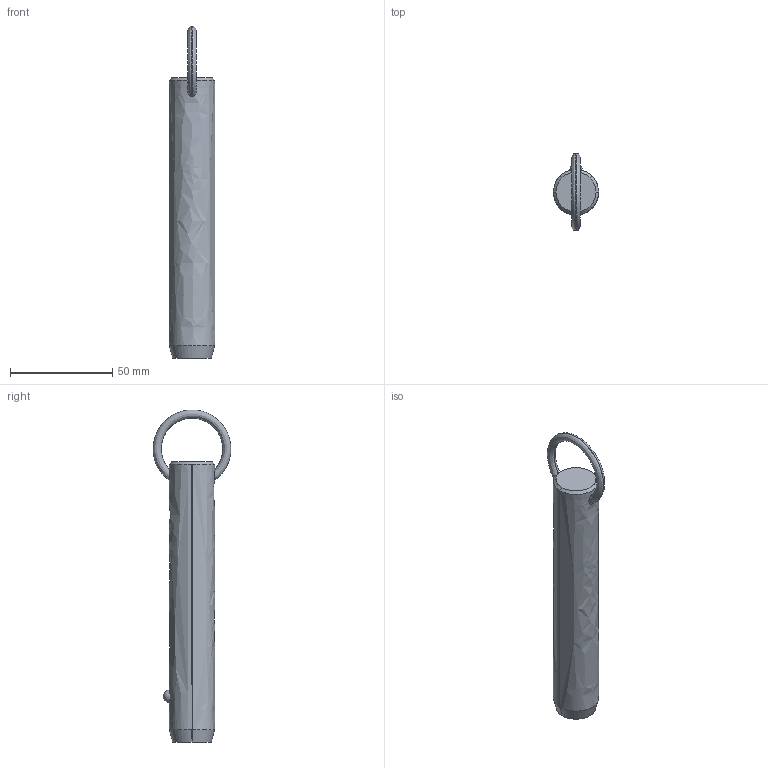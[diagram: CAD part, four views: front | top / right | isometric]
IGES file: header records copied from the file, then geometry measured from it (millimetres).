
Start section: SolidWorks IGES file using analytic representation for surfaces
Global section: file name: C:\Users\liam_\OneDrive\Documents\WORK\Work for WixRoyd\Job Files\J-00019 - Matt Davis CAD Checking\04. CAD Drawings\automotion20190605\P1250.2_v2\P1250.2_v2_20190729_IGES\P1250.087-390.igs; native system: SolidWorks 2017; preprocessor: SolidWorks 2017; author: liam_; date: 190730.001058; units: millimetre
Bounding box: 22.2 x 38.1 x 162.58 mm (x, y, z)
Surface area: 11212.5 mm2 (no closed solid volume)
Topology: 0 solids, 0 shells, 12 faces, 302 edges, 300 vertices
Faces by surface type: revolution 8, bspline 4
